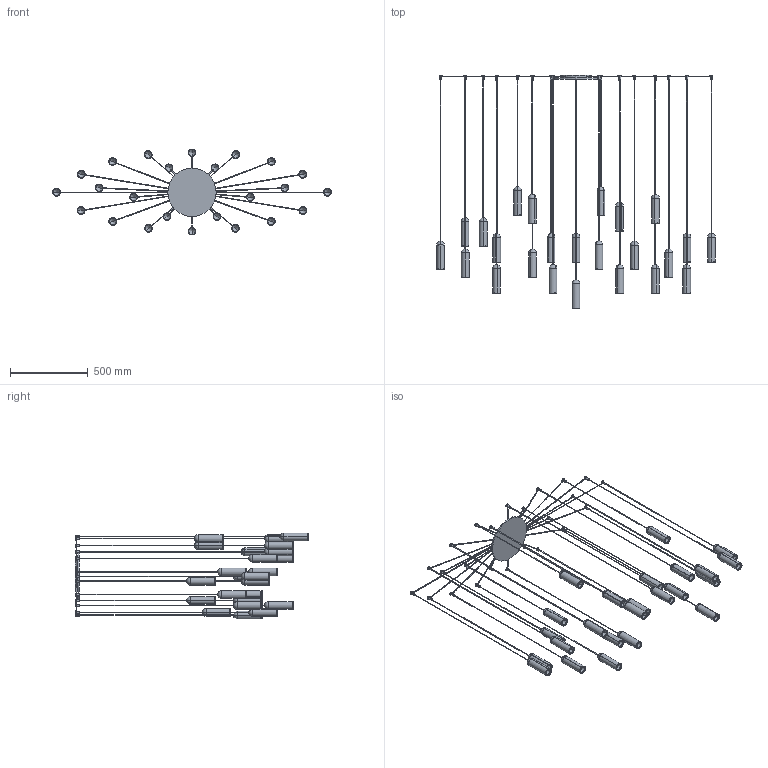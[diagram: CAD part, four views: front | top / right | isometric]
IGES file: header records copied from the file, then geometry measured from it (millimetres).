
Start section: SolidWorks IGES file using analytic representation for surfaces
Global section: file name: Y:\eforma\TECNICO\SOLIDWORKS\E-FORMA\09-LAMPADE\NANUM\08 modelli 3D web\NANA3-00-NANUM 24 A ROSONE CENTRALE.IGS; native system: SolidWorks 2022; preprocessor: SolidWorks 2022; author: eforma.tech; date: 240801.144729; units: millimetre
Bounding box: 1790 x 1500 x 552 mm (x, y, z)
Volume: 3441395.3 mm3; surface area: 2092151.2 mm2
Topology: 72 solids, 72 shells, 912 faces, 1804 edges, 1037 vertices
Faces by surface type: revolution 725, plane 187
